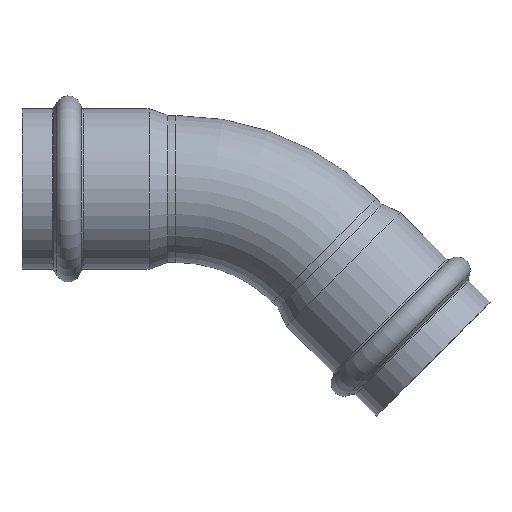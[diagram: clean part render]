
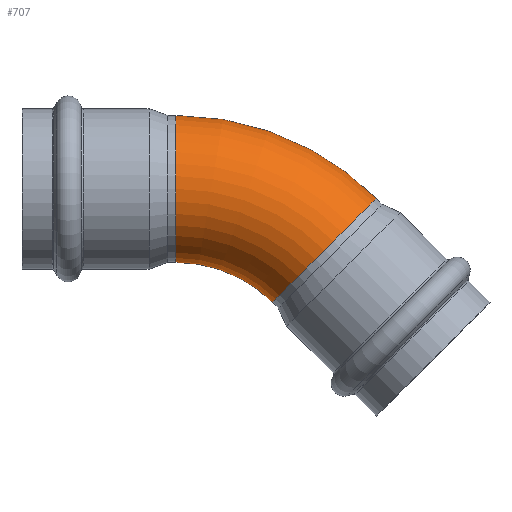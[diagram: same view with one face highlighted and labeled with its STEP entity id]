
A CAD part, top view. The second image highlights one B-rep face of the part: STEP entity #707.
In plain terms, the highlighted toroidal (fillet/blend) face has major radius 50 mm and minor radius 17.5 mm.
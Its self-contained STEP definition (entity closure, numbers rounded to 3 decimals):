
#680=CARTESIAN_POINT('',(0.,-50.0,0.0));
#681=DIRECTION('',(0.0,0.0,-1.0));
#682=DIRECTION('',(-1.0,0.0,0.0));
#683=AXIS2_PLACEMENT_3D('',#680,#681,#682);
#684=TOROIDAL_SURFACE('',#683,50.0,17.5);
#685=CARTESIAN_POINT('',(47.73,-2.27,0.0));
#686=VERTEX_POINT('',#685);
#687=CARTESIAN_POINT('',(35.355,-14.645,0.0));
#688=DIRECTION('',(0.707,-0.707,0.0));
#689=DIRECTION('',(0.707,0.707,0.0));
#690=AXIS2_PLACEMENT_3D('',#687,#688,#689);
#691=CIRCLE('',#690,17.5);
#692=EDGE_CURVE('',#686,#686,#691,.T.);
#693=ORIENTED_EDGE('',*,*,#692,.F.);
#694=EDGE_LOOP('',(#693));
#695=FACE_OUTER_BOUND('',#694,.T.);
#696=CARTESIAN_POINT('',(0.,17.5,0.0));
#697=VERTEX_POINT('',#696);
#698=CARTESIAN_POINT('',(0.,0.,0.0));
#699=DIRECTION('',(1.0,0.0,0.0));
#700=DIRECTION('',(0.0,1.0,0.0));
#701=AXIS2_PLACEMENT_3D('',#698,#699,#700);
#702=CIRCLE('',#701,17.5);
#703=EDGE_CURVE('',#697,#697,#702,.T.);
#704=ORIENTED_EDGE('',*,*,#703,.T.);
#705=EDGE_LOOP('',(#704));
#706=FACE_BOUND('',#705,.T.);
#707=ADVANCED_FACE('',(#695,#706),#684,.T.);
